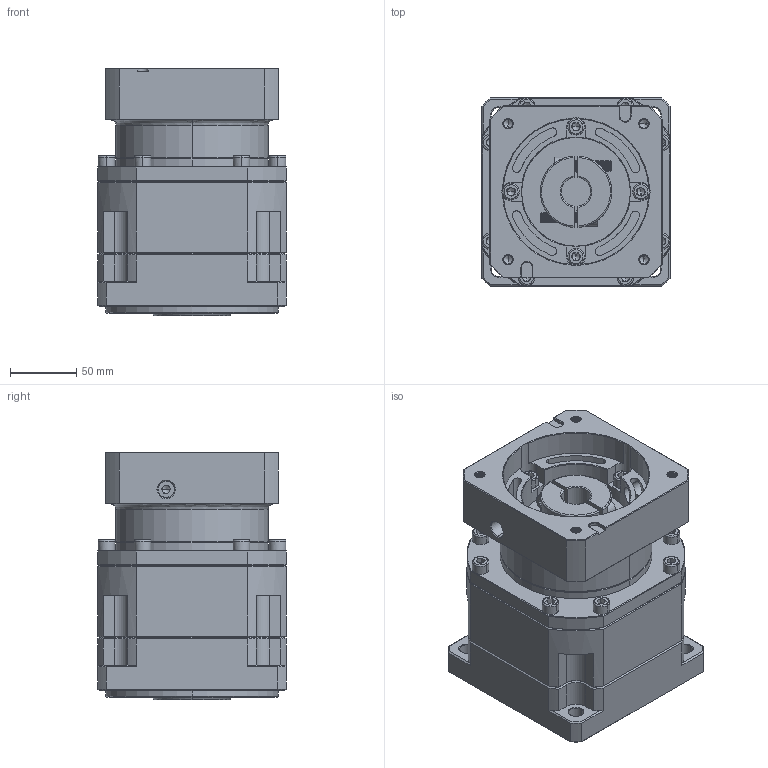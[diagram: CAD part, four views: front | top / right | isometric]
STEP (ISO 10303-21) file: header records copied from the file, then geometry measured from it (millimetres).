
FILE_DESCRIPTION (( 'STEP AP214' ), '1' );
FILE_NAME ('ZB142A-K35-L1-P2-22-110-145-M8.step', '2023-09-01T11:45:14', ( '' ), ( '' ), 'SwSTEP 2.0', 'SolidWorks 2016', '' );
FILE_SCHEMA (( 'AUTOMOTIVE_DESIGN' ));
Length unit declared in the file: millimetre
Products named in the file (1): ZB142A-K35-L1-P2-22-110-145-M8
Bounding box: 142 x 142 x 186.8 mm (x, y, z)
Volume: 2613193.4 mm3; surface area: 280424.7 mm2
Topology: 7 solids, 7 shells, 2544 faces, 6751 edges, 4320 vertices
Faces by surface type: plane 1226, cylinder 481, bspline 403, cone 380, torus 54
Entity records: 138588 total; most frequent: CARTESIAN_POINT 50575, ORIENTED_EDGE 13398, DIRECTION 10984, EDGE_CURVE 6699, VERTEX_POINT 4320, VECTOR 4242, LINE 4242, AXIS2_PLACEMENT_3D 3371
